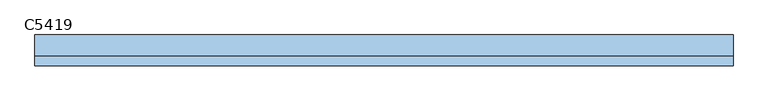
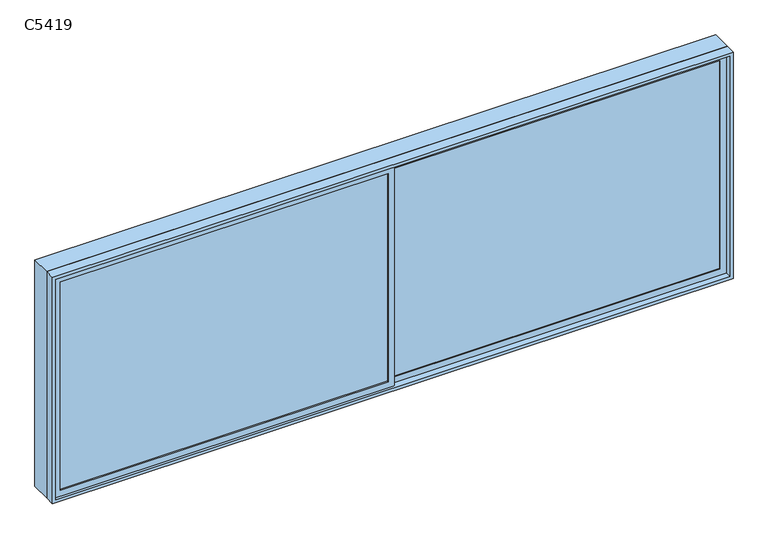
"""IFC4 building model written with IfcOpenShell, lengths in millimetres: window geometry, 推拉窗6 : C5419."""

from ifc_helpers import new_model, si_unit, frame, origin, place, context, project, spatial, polyline, outline, extrude, source, transform, mapped, element, save


def c5419_e052dd55(model_context):
    return source(origin(), model_context, "Body", "SweptSolid", [
        extrude(outline(polyline([(-2615.475, -23.1265625), (-2615.475, -13.1265625), (-15.475, -13.1265625), (-15.475, -23.1265625), (-2615.475, -23.1265625)])), frame((0.0, 0.0, 675.0), z_axis=(0.0, 0.0, 1.0), x_axis=(1.0, 0.0, 0.0)), (0.0, 0.0, 1.0), 1750.0),
        extrude(outline(polyline([(34.525, 6.8734375), (34.525, 16.8734375), (2634.525, 16.8734375), (2634.525, 6.8734375), (34.525, 6.8734375)])), frame((0.0, 0.0, 675.0), z_axis=(0.0, 0.0, 1.0), x_axis=(1.0, 0.0, 0.0)), (0.0, 0.0, 1.0), 1750.0),
        extrude(outline(polyline([(2500.0, -2690.475), (600.0, -2690.475), (600.0, 2709.525), (2500.0, 2709.525), (2500.0, -2690.475)]), holes=[polyline([(2445.0, 2659.525), (655.0, 2659.525), (655.0, -2640.475), (2445.0, -2640.475), (2445.0, 2659.525)])]), frame((0.0, 26.8734375, 0.0), z_axis=(0.0, 1.0, 0.0), x_axis=(0.0, 0.0, 1.0)), (0.0, 0.0, 1.0), 160.0),
        extrude(outline(polyline([(625.0, 34.525), (2475.0, 34.525), (2475.0, -2665.475), (625.0, -2665.475), (625.0, 34.525)]), holes=[polyline([(675.0, -15.475), (675.0, -2615.475), (2425.0, -2615.475), (2425.0, -15.475), (675.0, -15.475)])]), frame((0.0, -33.1265625, 0.0), z_axis=(0.0, 1.0, 0.0), x_axis=(0.0, 0.0, 1.0)), (0.0, 0.0, 1.0), 30.0),
        extrude(outline(polyline([(2475.0, -15.475), (625.0, -15.475), (625.0, 2684.525), (2475.0, 2684.525), (2475.0, -15.475)]), holes=[polyline([(2425.0, 34.525), (2425.0, 2634.525), (675.0, 2634.525), (675.0, 34.525), (2425.0, 34.525)])]), frame((0.0, -3.1265625, 0.0), z_axis=(0.0, 1.0, 0.0), x_axis=(0.0, 0.0, 1.0)), (0.0, 0.0, 1.0), 30.0),
        extrude(outline(polyline([(2500.0, -2690.475), (600.0, -2690.475), (600.0, 2709.525), (2500.0, 2709.525), (2500.0, -2690.475)]), holes=[polyline([(625.0, -2665.475), (2475.0, -2665.475), (2475.0, 2684.525), (625.0, 2684.525), (625.0, -2665.475)])]), frame((0.0, -53.1265625, 0.0), z_axis=(0.0, 1.0, 0.0), x_axis=(0.0, 0.0, 1.0)), (0.0, 0.0, 1.0), 80.0),
    ])


if __name__ == "__main__":
    model = new_model("IFC4")
    model_context = context("Model", 3, world=origin())
    ifc_project = project(units=[si_unit("LENGTHUNIT", "METRE", prefix="MILLI")], contexts=[model_context])
    site = spatial("IfcSite", under=ifc_project)
    building = spatial("IfcBuilding", under=site)
    placement = place(None, origin())
    c5419_shape = c5419_e052dd55(model_context)
    element("IfcWindow", 1, ObjectType="推拉窗6 : C5419", at=placement, inside=building, context=model_context, shape_type="MappedRepresentation", body=[
        mapped(c5419_shape, transform((0.0, 0.0, 0.0), x_axis=(1.0, 0.0, 0.0), y_axis=(0.0, 1.0, 0.0), z_axis=(0.0, 0.0, 1.0))),
    ])
    save(model, "model.ifc")
